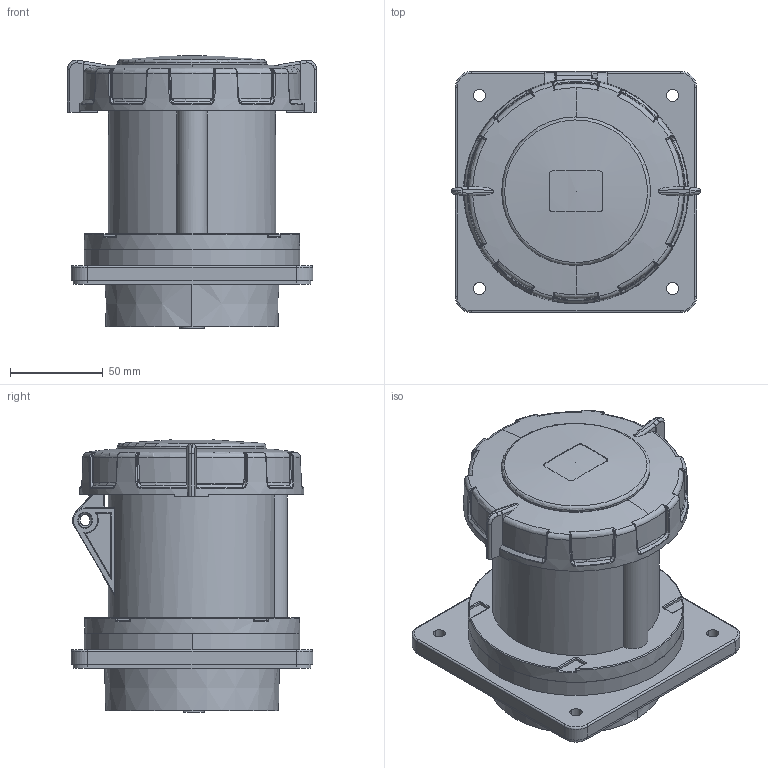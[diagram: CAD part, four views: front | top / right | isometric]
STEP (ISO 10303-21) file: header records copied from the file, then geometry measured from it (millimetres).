
FILE_DESCRIPTION(('FreeCAD Model'),'2;1');
FILE_NAME('Open CASCADE Shape Model','2026-02-03T10:30:34',(''),(''), 'Open CASCADE STEP processor 7.8','FreeCAD','Unknown');
FILE_SCHEMA(('AUTOMOTIVE_DESIGN { 1 0 10303 214 1 1 1 1 }'));
Length unit declared in the file: millimetre
Products named in the file (7): TL3R125643; Tampa parte 2; Tampa parte 1; Base interna; Corpo tomada; Terminais; Base externa
Assembly tree (6 placements, depth 2):
  TL3R125643
    Tampa parte 2
    Tampa parte 1
    Base interna
    Corpo tomada
    Terminais
    Base externa
Bounding box: 134 x 130 x 146.53 mm (x, y, z)
Volume: 890662 mm3; surface area: 230807.5 mm2
Topology: 6 solids, 6 shells, 1331 faces, 3436 edges, 2159 vertices
Faces by surface type: plane 543, cylinder 321, bspline 215, torus 135, cone 56, extrusion 45, sphere 16
Full cylindrical faces by diameter (mm): 6.6 x1, 12.5 x1, 23 x1, 78.4 x1, 79.3 x1, 80 x1, 94.5 x1, 111 x1
Entity records: 51483 total; most frequent: CARTESIAN_POINT 20192, ORIENTED_EDGE 6868, DIRECTION 6049, EDGE_CURVE 3434, AXIS2_PLACEMENT_3D 2207, VERTEX_POINT 2159, VECTOR 1635, LINE 1590
